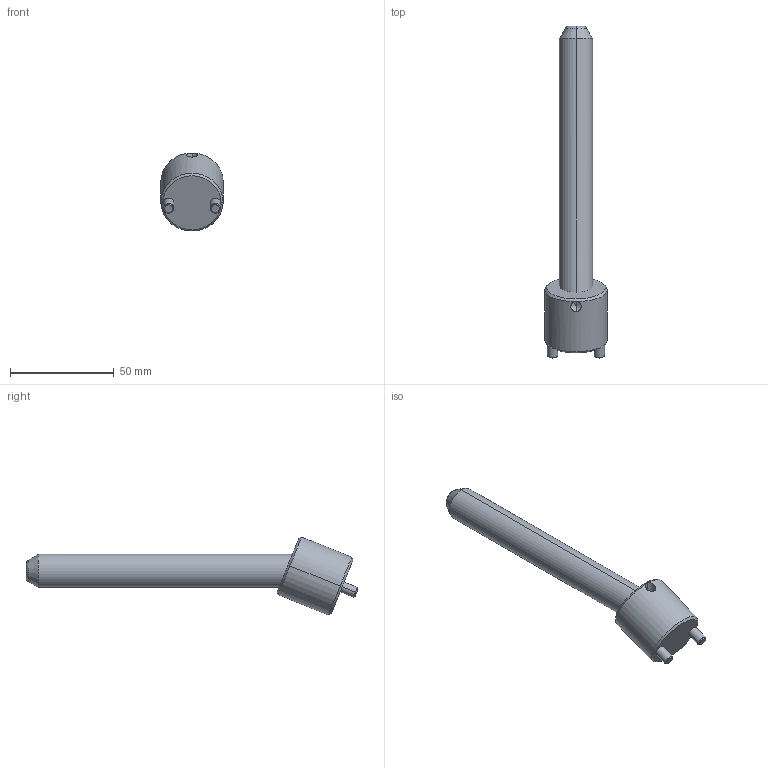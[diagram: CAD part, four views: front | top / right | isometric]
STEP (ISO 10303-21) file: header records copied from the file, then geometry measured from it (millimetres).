
FILE_DESCRIPTION(('CATIA V5 STEP Exchange'),'2;1');
FILE_NAME('C:\Users\Raffaele\Desktop\3D BOLEX\3D FILES CF BOLEX\19-INCLINED ASSEMBLY REF_CI\CI2216125.stp','2019-06-24T06:48:27+00:00',('none'),('none'),'CATIA Version 5 Release 20 GA (IN-10)','CATIA V5 STEP AP203','none');
FILE_SCHEMA(('CONFIG_CONTROL_DESIGN'));
Length unit declared in the file: millimetre
Products named in the file (1): CI2216125
Assembly tree (2 placements, depth 2):
  CI2216125
    #58
    #578
Bounding box: 30 x 159.79 x 37.53 mm (x, y, z)
Volume: 44394.1 mm3; surface area: 13200.1 mm2
Topology: 2 solids, 2 shells, 39 faces, 85 edges, 49 vertices
Faces by surface type: cone 14, cylinder 14, plane 7, torus 4
Entity records: 1495 total; most frequent: CARTESIAN_POINT 622, ORIENTED_EDGE 166, DIRECTION 146, EDGE_CURVE 83, AXIS2_PLACEMENT_3D 73, VERTEX_POINT 49, EDGE_LOOP 42, ADVANCED_FACE 39
